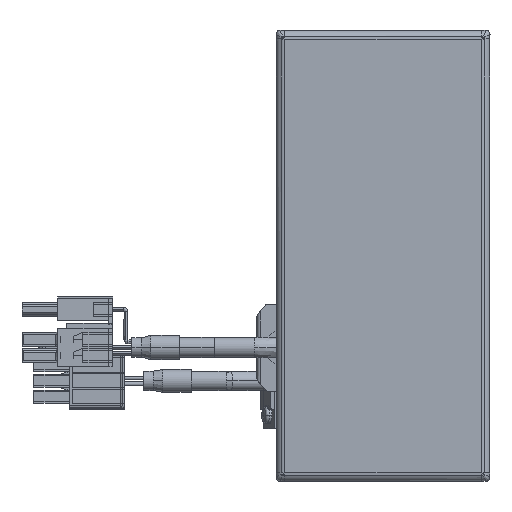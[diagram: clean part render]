
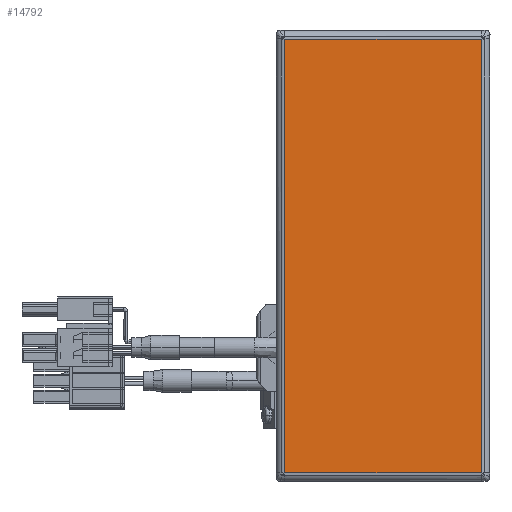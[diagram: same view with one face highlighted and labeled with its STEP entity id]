
A CAD part, top view. The second image highlights one B-rep face of the part: STEP entity #14792.
In plain terms, the highlighted planar face has unit normal (0, 0, 1) as drawn and (0, 0, -1) by its records, which use the part's own axes.
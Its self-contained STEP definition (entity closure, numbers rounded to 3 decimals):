
#236 = VERTEX_POINT ( 'NONE', #53071 ) ;
#1564 = LINE ( 'NONE', #39291, #24695 ) ;
#2910 = EDGE_CURVE ( 'NONE', #36768, #236, #1564, .T. ) ;
#3536 = CARTESIAN_POINT ( 'NONE',  ( -56.793, 25.763, -1.5 ) ) ;
#3879 = CARTESIAN_POINT ( 'NONE',  ( 56.763, 25.763, -1.5 ) ) ;
#3923 = ORIENTED_EDGE ( 'NONE', *, *, #39840, .T. ) ;
#5750 = DIRECTION ( 'NONE',  ( 0., 0., -1. ) ) ;
#5986 = VECTOR ( 'NONE', #11177, 1000. ) ;
#7046 = EDGE_CURVE ( 'NONE', #56607, #36768, #7393, .T. ) ;
#7393 = LINE ( 'NONE', #20494, #5986 ) ;
#11177 = DIRECTION ( 'NONE',  ( 0., -1., 0. ) ) ;
#11499 = ORIENTED_EDGE ( 'NONE', *, *, #56037, .T. ) ;
#14792 = ADVANCED_FACE ( 'NONE', ( #49728 ), #28848, .T. ) ;
#17525 = DIRECTION ( 'NONE',  ( 1., 0., 0. ) ) ;
#19858 = EDGE_LOOP ( 'NONE', ( #34364, #38855, #3923, #11499 ) ) ;
#20494 = CARTESIAN_POINT ( 'NONE',  ( 56.763, 25.793, -1.5 ) ) ;
#21223 = VECTOR ( 'NONE', #17525, 1000. ) ;
#24089 = VERTEX_POINT ( 'NONE', #27486 ) ;
#24695 = VECTOR ( 'NONE', #57888, 1000. ) ;
#27486 = CARTESIAN_POINT ( 'NONE',  ( -56.763, 25.763, -1.5 ) ) ;
#28848 = PLANE ( 'NONE',  #36043 ) ;
#30588 = CARTESIAN_POINT ( 'NONE',  ( -56.763, -25.793, -1.5 ) ) ;
#33608 = CARTESIAN_POINT ( 'NONE',  ( 56.763, -25.763, -1.5 ) ) ;
#34364 = ORIENTED_EDGE ( 'NONE', *, *, #7046, .T. ) ;
#36043 = AXIS2_PLACEMENT_3D ( 'NONE', #47241, #5750, #38123 ) ;
#36622 = VECTOR ( 'NONE', #58238, 1000. ) ;
#36768 = VERTEX_POINT ( 'NONE', #33608 ) ;
#38123 = DIRECTION ( 'NONE',  ( -1., 0., 0. ) ) ;
#38855 = ORIENTED_EDGE ( 'NONE', *, *, #2910, .T. ) ;
#39291 = CARTESIAN_POINT ( 'NONE',  ( 56.793, -25.763, -1.5 ) ) ;
#39840 = EDGE_CURVE ( 'NONE', #236, #24089, #58264, .T. ) ;
#44355 = LINE ( 'NONE', #3536, #21223 ) ;
#47241 = CARTESIAN_POINT ( 'NONE',  ( 0., 0., -1.5 ) ) ;
#49728 = FACE_OUTER_BOUND ( 'NONE', #19858, .T. ) ;
#53071 = CARTESIAN_POINT ( 'NONE',  ( -56.763, -25.763, -1.5 ) ) ;
#56037 = EDGE_CURVE ( 'NONE', #24089, #56607, #44355, .T. ) ;
#56607 = VERTEX_POINT ( 'NONE', #3879 ) ;
#57888 = DIRECTION ( 'NONE',  ( -1., 0., 0. ) ) ;
#58238 = DIRECTION ( 'NONE',  ( 0., 1., 0. ) ) ;
#58264 = LINE ( 'NONE', #30588, #36622 ) ;
